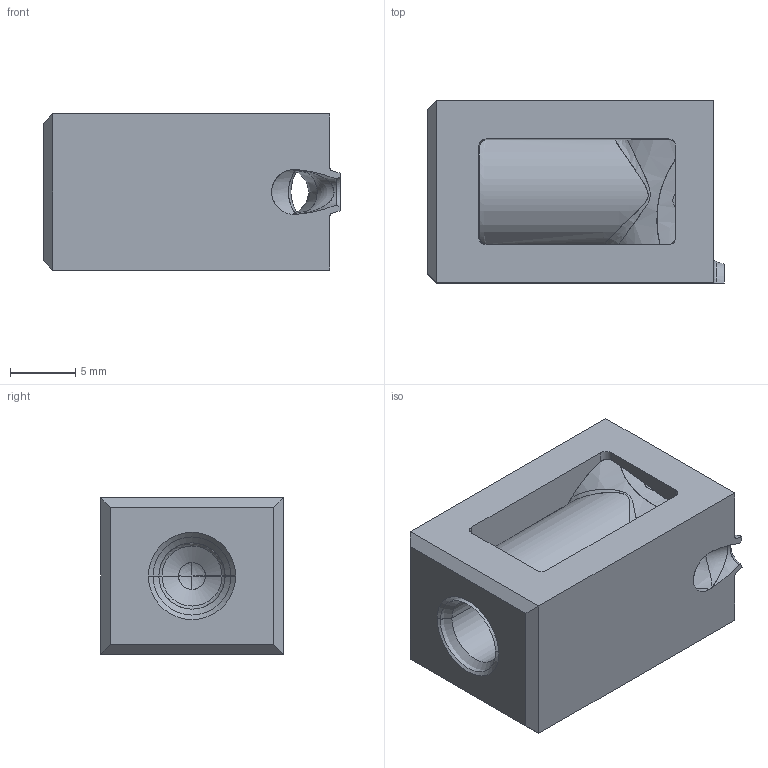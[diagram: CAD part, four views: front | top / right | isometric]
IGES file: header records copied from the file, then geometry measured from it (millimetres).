
Start section: START RECORD GO HERE.
Global section: file name: tgs14-20-s2.igs; native system: DASSAULT SYSTEMES CATIA V5 R20 - www.3ds.com; preprocessor: CATIA Version 5 Release 20 ; author: Utente; organization: NB04-ASUS; date: 20200418.085854; units: millimetre
Bounding box: 22.8 x 14 x 12 mm (x, y, z)
Surface area: 2226.9 mm2 (no closed solid volume)
Topology: 0 solids, 0 shells, 73 faces, 443 edges, 436 vertices
Faces by surface type: revolution 38, plane 21, bspline 14
